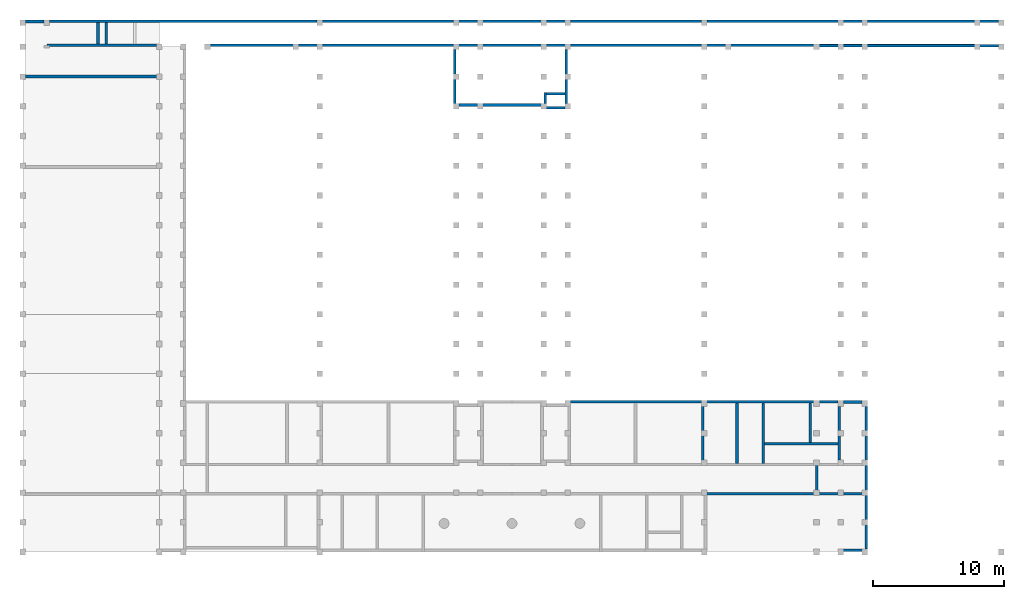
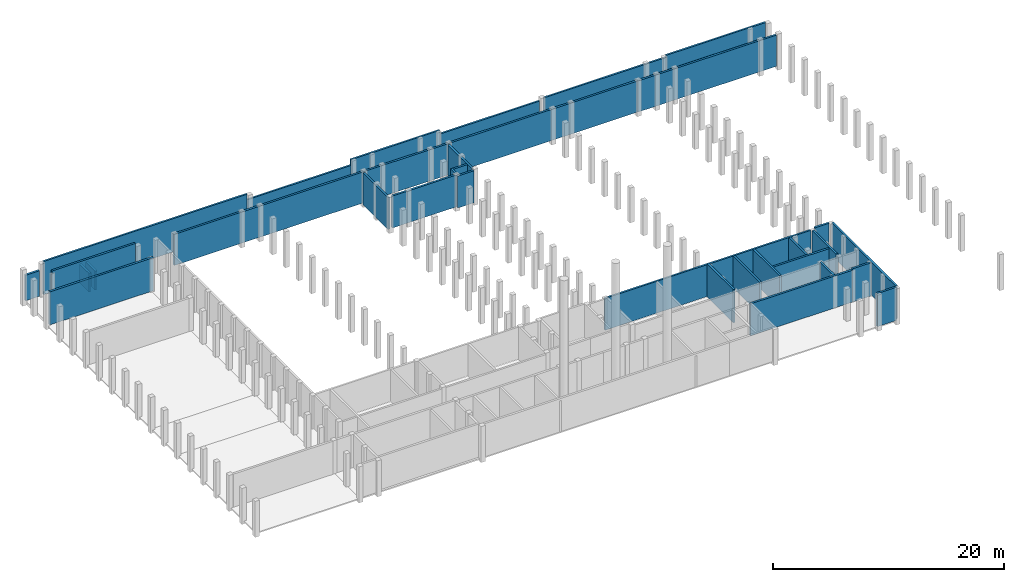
# One storey, part 9 of 9: 32 walls.
"""IFC2X3 building model written with IfcOpenShell, lengths in millimetres."""

from ifc_helpers import new_model, entity, si_unit, converted_unit, derived_unit, direction, frame, frame_2d, origin, place, context, subcontext, project, spatial, polyline, rectangle, extrude, clip, bounded_halfspace, material, layer, layer_set, layer_usage, type_object, element, save


model = new_model("IFC2X3")

# Units and contexts
model_context = context("Model", 3, precision=0.01, world=origin(), true_north=direction((6.12303176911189e-17, 1.0)))
body_context = subcontext(model_context, "Body", "Model", "MODEL_VIEW")
ifc_project = project(units=[si_unit("LENGTHUNIT", "METRE", prefix="MILLI"), si_unit("AREAUNIT", "SQUARE_METRE"), si_unit("VOLUMEUNIT", "CUBIC_METRE"), converted_unit("PLANEANGLEUNIT", "DEGREE", entity("IfcRatioMeasure", 0.0174532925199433), si_unit("PLANEANGLEUNIT", "RADIAN"), dimensions=[0, 0, 0, 0, 0, 0, 0]), si_unit("MASSUNIT", "GRAM", prefix="KILO"), derived_unit("MASSDENSITYUNIT", [(si_unit("MASSUNIT", "GRAM", prefix="KILO"), 1), (si_unit("LENGTHUNIT", "METRE"), -3)]), derived_unit("MOMENTOFINERTIAUNIT", [(si_unit("LENGTHUNIT", "METRE"), 4)]), si_unit("TIMEUNIT", "SECOND"), si_unit("FREQUENCYUNIT", "HERTZ"), si_unit("THERMODYNAMICTEMPERATUREUNIT", "DEGREE_CELSIUS"), derived_unit("THERMALTRANSMITTANCEUNIT", [(si_unit("MASSUNIT", "GRAM", prefix="KILO"), 1), (si_unit("THERMODYNAMICTEMPERATUREUNIT", "KELVIN"), -1), (si_unit("TIMEUNIT", "SECOND"), -3)]), derived_unit("VOLUMETRICFLOWRATEUNIT", [(si_unit("LENGTHUNIT", "METRE"), 3), (si_unit("TIMEUNIT", "SECOND"), -1)]), si_unit("ELECTRICCURRENTUNIT", "AMPERE"), si_unit("ELECTRICVOLTAGEUNIT", "VOLT"), si_unit("POWERUNIT", "WATT"), si_unit("FORCEUNIT", "NEWTON", prefix="KILO"), si_unit("ILLUMINANCEUNIT", "LUX"), si_unit("LUMINOUSFLUXUNIT", "LUMEN"), si_unit("LUMINOUSINTENSITYUNIT", "CANDELA"), derived_unit("USERDEFINED", [(si_unit("MASSUNIT", "GRAM", prefix="KILO"), -1), (si_unit("LENGTHUNIT", "METRE"), -2), (si_unit("TIMEUNIT", "SECOND"), 3), (si_unit("LUMINOUSFLUXUNIT", "LUMEN"), 1)]), derived_unit("LINEARVELOCITYUNIT", [(si_unit("LENGTHUNIT", "METRE"), 1), (si_unit("TIMEUNIT", "SECOND"), -1)]), si_unit("PRESSUREUNIT", "PASCAL"), derived_unit("USERDEFINED", [(si_unit("LENGTHUNIT", "METRE"), -2), (si_unit("MASSUNIT", "GRAM", prefix="KILO"), 1), (si_unit("TIMEUNIT", "SECOND"), -2)]), derived_unit("LINEARFORCEUNIT", [(si_unit("MASSUNIT", "GRAM", prefix="KILO"), 1), (si_unit("LENGTHUNIT", "METRE"), 1), (si_unit("TIMEUNIT", "SECOND"), -2), (si_unit("LENGTHUNIT", "METRE"), -1)]), derived_unit("PLANARFORCEUNIT", [(si_unit("MASSUNIT", "GRAM", prefix="KILO"), 1), (si_unit("LENGTHUNIT", "METRE"), 1), (si_unit("TIMEUNIT", "SECOND"), -2), (si_unit("LENGTHUNIT", "METRE"), -2)])], contexts=[model_context])

# Site, building, storey
site_placement = place(None, frame((10627.5135316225, 21939.0796949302, 0.0)))
site = spatial("IfcSite", under=ifc_project, at=site_placement, Name="Default", CompositionType="ELEMENT")
building_placement = place(site_placement, origin())
building = spatial("IfcBuilding", under=site, at=building_placement, CompositionType="ELEMENT")
storey_placement = place(building_placement, frame((0.0, 0.0, -3500.0)))
storey = spatial("IfcBuildingStorey", under=building, at=storey_placement, Name="R-1", CompositionType="ELEMENT", Elevation=-3500.0)

# Walls
ifc_material_1 = material(Name="Concrete - Cast-in-Place Concrete")
ifc_layer_1 = layer(ifc_material_1, 200.0)
ifc_layer_set_1 = layer_set([ifc_layer_1], Name="Basic Wall:Wall-Fnd_200interior")
ifc_layer_usage_1 = layer_usage(ifc_layer_set_1, "AXIS2", "POSITIVE", -100.0)
wall_type_1 = type_object("IfcWallType", Name="Basic Wall:Wall-Fnd_200interior", PredefinedType="STANDARD", material=ifc_layer_set_1)
wall_1_placement = place(storey_placement, frame((-8797.51353162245, 16595.9203050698, 0.0)))
element("IfcWallStandardCase", 1, at=wall_1_placement, inside=storey, type_object=wall_type_1, material=ifc_layer_usage_1, Name="Basic Wall:Wall-Fnd_200interior", ObjectType="Basic Wall:Wall-Fnd_200interior", context=body_context, shape_type="SweptSolid", body=[
    extrude(rectangle(XDim=8335.00000000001, YDim=200.000000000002, at=frame_2d((4167.5, -3.69482222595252e-13), x_axis=(-1.0, 0.0))), origin(), (0.0, 0.0, 1.0), 3700.0),
])
ifc_layer_usage_2 = layer_usage(ifc_layer_set_1, "AXIS2", "NEGATIVE", 100.0)
wall_2_placement = place(storey_placement, frame((63567.4864683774, 16580.9203050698, 0.0), z_axis=(0.0, 0.0, 1.0), x_axis=(-1.0, 0.0, 0.0)))
element("IfcWallStandardCase", 2, at=wall_2_placement, inside=storey, type_object=wall_type_1, material=ifc_layer_usage_2, Name="Basic Wall:Wall-Fnd_200interior", ObjectType="Basic Wall:Wall-Fnd_200interior", context=body_context, shape_type="Clipping", body=[
    clip(extrude(rectangle(XDim=13825.0, YDim=199.999999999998, at=frame_2d((6912.50000000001, 0.0), x_axis=(-1.0, 0.0))), origin(), (0.0, 0.0, 1.0), 3289.0), bounded_halfspace(frame((12208.0, -100.0, 3289.0), z_axis=(0.0, 0.0, -1.0), x_axis=(0.0, -1.0, 0.0)), True, frame((12208.0, -100.0, 3289.0)), polyline([(0.0, 0.0), (1617.0, 0.0), (1617.0, 200.0), (0.0, 200.0), (0.0, 0.0)]))),
])
ifc_layer_usage_3 = layer_usage(ifc_layer_set_1, "AXIS2", "POSITIVE", -100.0)
wall_3_placement = place(storey_placement, frame((51472.4864683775, -17519.0796949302, 0.0), z_axis=(0.0, 0.0, 1.0), x_axis=(-1.0, 0.0, 0.0)))
element("IfcWallStandardCase", 3, at=wall_3_placement, inside=storey, type_object=wall_type_1, material=ifc_layer_usage_3, Name="Basic Wall:Wall-Fnd_200interior", ObjectType="Basic Wall:Wall-Fnd_200interior", context=body_context, shape_type="SweptSolid", body=[
    extrude(rectangle(XDim=10180.0, YDim=199.999999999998, at=frame_2d((5090.0, 3.12638803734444e-13), x_axis=(-1.0, 0.0))), origin(), (0.0, 0.0, 1.0), 3370.0),
])
ifc_layer_2 = layer(ifc_material_1, 200.0)
ifc_layer_set_2 = layer_set([ifc_layer_2], Name="Basic Wall:Wall-Fnd_200")
ifc_layer_usage_4 = layer_usage(ifc_layer_set_2, "AXIS2", "NEGATIVE", 100.0)
wall_type_2 = type_object("IfcWallType", Name="Basic Wall:Wall-Fnd_200", PredefinedType="STANDARD", material=ifc_layer_set_2)
wall_4_placement = place(storey_placement, frame((61952.4864683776, 16600.9203050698, 0.0), z_axis=(0.0, 0.0, 1.0), x_axis=(-1.0, 0.0, 0.0)))
element("IfcWallStandardCase", 4, at=wall_4_placement, inside=storey, type_object=wall_type_2, material=ifc_layer_usage_4, Name="Basic Wall:Wall-Fnd_200", ObjectType="Basic Wall:Wall-Fnd_200", context=body_context, shape_type="Clipping", body=[
    clip(extrude(rectangle(XDim=58540.0, YDim=199.999999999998, at=frame_2d((29270.0, 3.26849658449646e-13), x_axis=(-1.0, 0.0))), origin(), (0.0, 0.0, 1.0), 3289.0), bounded_halfspace(frame((10593.0, -100.0, 3289.0), z_axis=(0.0, 0.0, -1.0), x_axis=(0.0, -1.0, 0.0)), True, frame((10593.0, -100.0, 3289.0)), polyline([(0.0, 0.0), (9952.0, 0.0), (9952.0, 200.0), (0.0, 200.0), (0.0, 0.0)]))),
])
ifc_layer_usage_5 = layer_usage(ifc_layer_set_2, "AXIS2", "NEGATIVE", 100.0)
wall_5_placement = place(storey_placement, frame((51472.4864683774, -17519.0796949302, 0.0)))
element("IfcWallStandardCase", 5, at=wall_5_placement, inside=storey, type_object=wall_type_2, material=ifc_layer_usage_5, Name="Basic Wall:Wall-Fnd_200", ObjectType="Basic Wall:Wall-Fnd_200", context=body_context, shape_type="SweptSolid", body=[
    extrude(rectangle(XDim=1830.00000000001, YDim=199.999999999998, at=frame_2d((915.000000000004, 0.0), x_axis=(-1.0, 0.0))), origin(), (0.0, 0.0, 1.0), 3500.0),
])
ifc_layer_usage_6 = layer_usage(ifc_layer_set_2, "AXIS2", "POSITIVE", -100.0)
wall_6_placement = place(storey_placement, frame((49742.4864683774, -17419.0796949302, 0.0), z_axis=(0.0, 0.0, 1.0), x_axis=(0.0, 1.0, 0.0)))
element("IfcWallStandardCase", 6, at=wall_6_placement, inside=storey, type_object=wall_type_2, material=ifc_layer_usage_6, Name="Basic Wall:Wall-Fnd_200", ObjectType="Basic Wall:Wall-Fnd_200", context=body_context, shape_type="Clipping", body=[
    clip(extrude(rectangle(XDim=2260.00000000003, YDim=200.000000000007, at=frame_2d((1130.00000000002, -1.89714910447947e-12), x_axis=(-1.0, 0.0))), origin(), (0.0, 0.0, 1.0), 3370.0), bounded_halfspace(frame((0.0, -100.0, 3370.0), z_axis=(0.0, 0.0, -1.0), x_axis=(0.0, -1.0, 0.0)), True, frame((0.0, -100.0, 3370.0)), polyline([(0.0, 0.0), (2260.0, 0.0), (2260.0, 200.0), (0.0, 200.0), (0.0, 0.0)]))),
])
ifc_layer_usage_7 = layer_usage(ifc_layer_set_2, "AXIS2", "POSITIVE", -100.0)
wall_7_placement = place(storey_placement, frame((22229.4864683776, 16265.9203050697, 0.0), z_axis=(0.0, 0.0, 1.0), x_axis=(0.0, -1.0, 0.0)))
element("IfcWallStandardCase", 7, at=wall_7_placement, inside=storey, type_object=wall_type_2, material=ifc_layer_usage_7, Name="Basic Wall:Wall-Fnd_200", ObjectType="Basic Wall:Wall-Fnd_200", context=body_context, shape_type="Clipping", body=[
    clip(extrude(rectangle(XDim=4305.0, YDim=199.999999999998, at=frame_2d((2152.5, 0.0), x_axis=(-1.0, 0.0))), origin(), (0.0, 0.0, 1.0), 3370.0), bounded_halfspace(frame((0.0, -100.0, 3370.0), z_axis=(0.0, 0.0, -1.0), x_axis=(0.0, 1.0, 0.0)), True, frame((0.0, -100.0, 3370.0)), polyline([(0.0, 0.0), (4305.0, 0.0), (4305.0, 200.0), (0.0, 200.0), (0.0, 0.0)]))),
])
ifc_layer_usage_8 = layer_usage(ifc_layer_set_2, "AXIS2", "POSITIVE", -100.0)
wall_8_placement = place(storey_placement, frame((22557.4864683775, 12060.9203050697, 0.0)))
element("IfcWallStandardCase", 8, at=wall_8_placement, inside=storey, type_object=wall_type_2, material=ifc_layer_usage_8, Name="Basic Wall:Wall-Fnd_200", ObjectType="Basic Wall:Wall-Fnd_200", context=body_context, shape_type="Clipping", body=[
    clip(extrude(rectangle(XDim=6639.99999999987, YDim=199.999999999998, at=frame_2d((3319.99999999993, 0.0), x_axis=(-1.0, 0.0))), origin(), (0.0, 0.0, 1.0), 3370.0), bounded_halfspace(frame((0.0, -100.0, 3370.0), z_axis=(0.0, 0.0, -1.0), x_axis=(1.0, 0.0, 0.0)), True, frame((0.0, -100.0, 3370.0)), polyline([(0.0, 0.0), (6640.0, 0.0), (6640.0, 200.0), (6440.0, 200.0), (0.0, 200.0), (0.0, 0.0)]))),
])
ifc_layer_usage_9 = layer_usage(ifc_layer_set_2, "AXIS2", "POSITIVE", -100.0)
wall_9_placement = place(storey_placement, frame((29097.4864683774, 12160.9203050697, 0.0), z_axis=(0.0, 0.0, 1.0), x_axis=(0.0, 1.0, 0.0)))
element("IfcWallStandardCase", 9, at=wall_9_placement, inside=storey, type_object=wall_type_2, material=ifc_layer_usage_9, Name="Basic Wall:Wall-Fnd_200", ObjectType="Basic Wall:Wall-Fnd_200", context=body_context, shape_type="Clipping", body=[
    clip(extrude(rectangle(XDim=869.182833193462, YDim=199.999999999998, at=frame_2d((434.591416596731, 0.0), x_axis=(-1.0, 0.0))), origin(), (0.0, 0.0, 1.0), 3370.0), bounded_halfspace(frame((0.0, -100.0, 3370.0), z_axis=(0.0, 0.0, -1.0), x_axis=(0.0, -1.0, 0.0)), True, frame((0.0, -100.0, 3370.0)), polyline([(0.0, 0.0), (669.182833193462, 0.0), (869.182833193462, 0.0), (869.182833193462, 200.0), (0.0, 200.0), (0.0, 0.0)]))),
])
ifc_layer_usage_10 = layer_usage(ifc_layer_set_2, "AXIS2", "POSITIVE", -100.0)
wall_10_placement = place(storey_placement, frame((29197.4864683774, 12930.1031382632, 0.0)))
element("IfcWallStandardCase", 10, at=wall_10_placement, inside=storey, type_object=wall_type_2, material=ifc_layer_usage_10, Name="Basic Wall:Wall-Fnd_200", ObjectType="Basic Wall:Wall-Fnd_200", context=body_context, shape_type="Clipping", body=[
    clip(extrude(rectangle(XDim=1401.99999999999, YDim=199.999999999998, at=frame_2d((700.999999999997, -1.56319401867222e-13), x_axis=(-1.0, 0.0))), origin(), (0.0, 0.0, 1.0), 3370.0), bounded_halfspace(frame((0.0, -100.0, 3370.0), z_axis=(0.0, 0.0, -1.0), x_axis=(1.0, 0.0, 0.0)), True, frame((0.0, -100.0, 3370.0)), polyline([(0.0, 0.0), (1402.0, 0.0), (1402.0, 200.0), (0.0, 200.0), (0.0, 0.0)]))),
])
ifc_layer_usage_11 = layer_usage(ifc_layer_set_2, "AXIS2", "NEGATIVE", 100.0)
wall_11_placement = place(storey_placement, frame((30599.4864683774, 11845.9203050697, 0.0), z_axis=(0.0, 0.0, 1.0), x_axis=(-1.0, 0.0, 0.0)))
element("IfcWallStandardCase", 11, at=wall_11_placement, inside=storey, type_object=wall_type_2, material=ifc_layer_usage_11, Name="Basic Wall:Wall-Fnd_200", ObjectType="Basic Wall:Wall-Fnd_200", context=body_context, shape_type="Clipping", body=[
    clip(extrude(rectangle(XDim=1617.0, YDim=199.999999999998, at=frame_2d((808.5, 0.0), x_axis=(-1.0, 0.0))), origin(), (0.0, 0.0, 1.0), 3370.0), bounded_halfspace(frame((0.0, -100.0, 3370.0), z_axis=(0.0, 0.0, -1.0), x_axis=(-1.0, 0.0, 0.0)), True, frame((0.0, -100.0, 3370.0)), polyline([(0.0, 0.0), (1617.0, 0.0), (1617.0, 200.0), (0.0, 200.0), (0.0, 0.0)]))),
])
ifc_layer_usage_12 = layer_usage(ifc_layer_set_2, "AXIS2", "NEGATIVE", 100.0)
wall_12_placement = place(storey_placement, frame((30699.4864683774, 12175.9203050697, 0.0), z_axis=(0.0, 0.0, 1.0), x_axis=(0.0, 1.0, 0.0)))
element("IfcWallStandardCase", 12, at=wall_12_placement, inside=storey, type_object=wall_type_2, material=ifc_layer_usage_12, Name="Basic Wall:Wall-Fnd_200", ObjectType="Basic Wall:Wall-Fnd_200", context=body_context, shape_type="Clipping", body=[
    clip(extrude(rectangle(XDim=4090.0, YDim=199.999999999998, at=frame_2d((2045.0, 0.0), x_axis=(-1.0, 0.0))), origin(), (0.0, 0.0, 1.0), 3370.0), bounded_halfspace(frame((0.0, -100.0, 3370.0), z_axis=(0.0, 0.0, -1.0), x_axis=(0.0, -1.0, 0.0)), True, frame((0.0, -100.0, 3370.0)), polyline([(0.0, 0.0), (4090.0, 0.0), (4090.0, 200.0), (854.182833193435, 200.0), (654.182833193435, 200.0), (0.0, 200.0), (0.0, 0.0)]))),
])
ifc_layer_usage_13 = layer_usage(ifc_layer_set_2, "AXIS2", "POSITIVE", -100.0)
wall_13_placement = place(storey_placement, frame((53517.4864683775, -21724.0796949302, 0.0), z_axis=(0.0, 0.0, 1.0), x_axis=(0.0, 1.0, 0.0)))
element("IfcWallStandardCase", 13, at=wall_13_placement, inside=storey, type_object=wall_type_2, material=ifc_layer_usage_13, Name="Basic Wall:Wall-Fnd_200", ObjectType="Basic Wall:Wall-Fnd_200", context=body_context, shape_type="SweptSolid", body=[
    extrude(rectangle(XDim=11085.0, YDim=200.000000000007, at=frame_2d((5542.5, 0.0), x_axis=(-1.0, 0.0))), origin(), (0.0, 0.0, 1.0), 3500.0),
])
ifc_layer_usage_14 = layer_usage(ifc_layer_set_2, "AXIS2", "POSITIVE", -100.0)
wall_14_placement = place(storey_placement, frame((53189.4864683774, -10524.0796949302, 0.0), z_axis=(0.0, 0.0, 1.0), x_axis=(-1.0, 0.0, 0.0)))
element("IfcWallStandardCase", 14, at=wall_14_placement, inside=storey, type_object=wall_type_2, material=ifc_layer_usage_14, Name="Basic Wall:Wall-Fnd_200", ObjectType="Basic Wall:Wall-Fnd_200", context=body_context, shape_type="SweptSolid", body=[
    extrude(rectangle(XDim=1404.0, YDim=199.999999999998, at=frame_2d((702.000000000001, 0.0), x_axis=(-1.0, 0.0))), origin(), (0.0, 0.0, 1.0), 3500.0),
])
ifc_layer_usage_15 = layer_usage(ifc_layer_set_2, "AXIS2", "NEGATIVE", 100.0)
wall_15_placement = place(storey_placement, frame((51457.4864683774, -14944.0796949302, 0.0), z_axis=(0.0, 0.0, 1.0), x_axis=(0.0, 1.0, 0.0)))
element("IfcWallStandardCase", 15, at=wall_15_placement, inside=storey, type_object=wall_type_2, material=ifc_layer_usage_15, Name="Basic Wall:Wall-Fnd_200", ObjectType="Basic Wall:Wall-Fnd_200", context=body_context, shape_type="SweptSolid", body=[
    extrude(rectangle(XDim=4090.0, YDim=200.000000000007, at=frame_2d((2045.0, 0.0), x_axis=(-1.0, 0.0))), origin(), (0.0, 0.0, 1.0), 3500.0),
])
ifc_layer_usage_16 = layer_usage(ifc_layer_set_2, "AXIS2", "NEGATIVE", 100.0)
wall_16_placement = place(storey_placement, frame((51357.4864683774, -13694.0796949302, 0.0), z_axis=(0.0, 0.0, 1.0), x_axis=(-1.0, 0.0, 0.0)))
element("IfcWallStandardCase", 16, at=wall_16_placement, inside=storey, type_object=wall_type_2, material=ifc_layer_usage_16, Name="Basic Wall:Wall-Fnd_200", ObjectType="Basic Wall:Wall-Fnd_200", context=body_context, shape_type="Clipping", body=[
    clip(extrude(rectangle(XDim=5580.0, YDim=199.999999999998, at=frame_2d((2790.0, -3.90798504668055e-13), x_axis=(-1.0, 0.0))), origin(), (0.0, 0.0, 1.0), 3370.0), bounded_halfspace(frame((0.0, -100.0, 3370.0), z_axis=(0.0, 0.0, -1.0), x_axis=(-1.0, 0.0, 0.0)), True, frame((0.0, -100.0, 3370.0)), polyline([(0.0, 0.0), (2008.21463158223, 0.0), (2208.21463158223, 0.0), (5580.0, 0.0), (5580.0, 200.0), (0.0, 200.0), (0.0, 0.0)]))),
])
ifc_layer_usage_17 = layer_usage(ifc_layer_set_2, "AXIS2", "NEGATIVE", 100.0)
wall_17_placement = place(storey_placement, frame((45677.4864683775, -15194.0796949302, 0.0), z_axis=(0.0, 0.0, 1.0), x_axis=(0.0, 1.0, 0.0)))
element("IfcWallStandardCase", 17, at=wall_17_placement, inside=storey, type_object=wall_type_2, material=ifc_layer_usage_17, Name="Basic Wall:Wall-Fnd_200", ObjectType="Basic Wall:Wall-Fnd_200", context=body_context, shape_type="Clipping", body=[
    clip(extrude(rectangle(XDim=4590.00000000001, YDim=200.000000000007, at=frame_2d((2295.0, -8.5265128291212e-14), x_axis=(-1.0, 0.0))), origin(), (0.0, 0.0, 1.0), 3370.0), bounded_halfspace(frame((0.0, -100.0, 3370.0), z_axis=(0.0, 0.0, -1.0), x_axis=(0.0, -1.0, 0.0)), True, frame((0.0, -100.0, 3370.0)), polyline([(0.0, 0.0), (1400.0, 0.0), (1600.0, 0.0), (4590.0, 0.0), (4590.0, 200.0), (0.0, 200.0), (0.0, 0.0)]))),
])
ifc_layer_usage_18 = layer_usage(ifc_layer_set_2, "AXIS2", "NEGATIVE", 100.0)
wall_18_placement = place(storey_placement, frame((49249.2718367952, -13594.0796949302, 0.0), z_axis=(0.0, 0.0, 1.0), x_axis=(0.0, 1.0, 0.0)))
element("IfcWallStandardCase", 18, at=wall_18_placement, inside=storey, type_object=wall_type_2, material=ifc_layer_usage_18, Name="Basic Wall:Wall-Fnd_200", ObjectType="Basic Wall:Wall-Fnd_200", context=body_context, shape_type="Clipping", body=[
    clip(extrude(rectangle(XDim=2990.0, YDim=200.000000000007, at=frame_2d((1495.0, -2.62900812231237e-13), x_axis=(-1.0, 0.0))), origin(), (0.0, 0.0, 1.0), 3370.0), bounded_halfspace(frame((0.0, -100.0, 3370.0), z_axis=(0.0, 0.0, -1.0), x_axis=(0.0, -1.0, 0.0)), True, frame((0.0, -100.0, 3370.0)), polyline([(0.0, 0.0), (2990.0, 0.0), (2990.0, 200.0), (0.0, 200.0), (0.0, 0.0)]))),
])
ifc_layer_3 = layer(ifc_material_1, 180.0)
ifc_layer_set_3 = layer_set([ifc_layer_3], Name="Basic Wall:Mur S/SOL 18")
ifc_layer_usage_19 = layer_usage(ifc_layer_set_3, "AXIS2", "POSITIVE", -90.0)
wall_type_3 = type_object("IfcWallType", Name="Basic Wall:Mur S/SOL 18", PredefinedType="STANDARD", material=ifc_layer_set_3)
wall_19_placement = place(storey_placement, frame((51359.4864683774, -10514.0796949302, 0.0), z_axis=(0.0, 0.0, 1.0), x_axis=(-1.0, 0.0, 0.0)))
element("IfcWallStandardCase", 19, at=wall_19_placement, inside=storey, type_object=wall_type_3, material=ifc_layer_usage_19, Name="Basic Wall:Mur S/SOL 18", ObjectType="Basic Wall:Mur S/SOL 18", context=body_context, shape_type="Clipping", body=[
    clip(extrude(rectangle(XDim=20547.0, YDim=179.999999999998, at=frame_2d((10273.5, 0.0), x_axis=(-1.0, 0.0))), origin(), (0.0, 0.0, 1.0), 3370.0), bounded_halfspace(frame((0.0, -90.0, 3370.0), z_axis=(0.0, 0.0, -1.0), x_axis=(-1.0, 0.0, 0.0)), True, frame((0.0, -90.0, 3370.0)), polyline([(0.0, 0.0), (10167.0, 0.0), (10167.0, 180.0), (7767.0, 180.0), (7567.0, 180.0), (5782.0, 180.0), (5582.0, 180.0), (2210.21463158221, 180.0), (2010.21463158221, 180.0), (0.0, 180.0), (0.0, 0.0)]))),
])
ifc_layer_usage_20 = layer_usage(ifc_layer_set_3, "AXIS2", "NEGATIVE", 90.0)
wall_20_placement = place(storey_placement, frame((-8583.51353162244, 18435.9203050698, 0.0)))
element("IfcWallStandardCase", 20, at=wall_20_placement, inside=storey, type_object=wall_type_3, material=ifc_layer_usage_20, Name="Basic Wall:Mur S/SOL 18", ObjectType="Basic Wall:Mur S/SOL 18", context=body_context, shape_type="SweptSolid", body=[
    extrude(rectangle(XDim=20340.0, YDim=179.999999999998, at=frame_2d((10170.0, 4.9737991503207e-14), x_axis=(-1.0, 0.0))), origin(), (0.0, 0.0, 1.0), 3500.0),
])
ifc_layer_usage_21 = layer_usage(ifc_layer_set_3, "AXIS2", "NEGATIVE", 90.0)
wall_21_placement = place(storey_placement, frame((11756.4864683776, 18435.9203050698, 0.0)))
element("IfcWallStandardCase", 21, at=wall_21_placement, inside=storey, type_object=wall_type_3, material=ifc_layer_usage_21, Name="Basic Wall:Mur S/SOL 18", ObjectType="Basic Wall:Mur S/SOL 18", context=body_context, shape_type="SweptSolid", body=[
    extrude(rectangle(XDim=10360.0, YDim=179.999999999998, at=frame_2d((5180.0, 3.26849658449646e-13), x_axis=(-1.0, 0.0))), origin(), (0.0, 0.0, 1.0), 2900.0),
])
ifc_layer_usage_22 = layer_usage(ifc_layer_set_3, "AXIS2", "NEGATIVE", 90.0)
wall_22_placement = place(storey_placement, frame((22116.4864683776, 18435.9203050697, 0.0)))
element("IfcWallStandardCase", 22, at=wall_22_placement, inside=storey, type_object=wall_type_3, material=ifc_layer_usage_22, Name="Basic Wall:Mur S/SOL 18", ObjectType="Basic Wall:Mur S/SOL 18", context=body_context, shape_type="SweptSolid", body=[
    extrude(rectangle(XDim=8920.0, YDim=179.999999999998, at=frame_2d((4460.0, -8.95283847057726e-13), x_axis=(-1.0, 0.0))), origin(), (0.0, 0.0, 1.0), 3500.0),
])
ifc_layer_usage_23 = layer_usage(ifc_layer_set_3, "AXIS2", "NEGATIVE", 90.0)
wall_23_placement = place(storey_placement, frame((31036.4864683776, 18435.9203050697, 0.0)))
element("IfcWallStandardCase", 23, at=wall_23_placement, inside=storey, type_object=wall_type_3, material=ifc_layer_usage_23, Name="Basic Wall:Mur S/SOL 18", ObjectType="Basic Wall:Mur S/SOL 18", context=body_context, shape_type="SweptSolid", body=[
    extrude(rectangle(XDim=9940.0, YDim=179.999999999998, at=frame_2d((4970.0, 7.31859017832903e-13), x_axis=(-1.0, 0.0))), origin(), (0.0, 0.0, 1.0), 3100.0),
])
ifc_layer_usage_24 = layer_usage(ifc_layer_set_3, "AXIS2", "NEGATIVE", 90.0)
wall_24_placement = place(storey_placement, frame((53627.4864683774, 18435.9203050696, 0.0)))
element("IfcWallStandardCase", 24, at=wall_24_placement, inside=storey, type_object=wall_type_3, material=ifc_layer_usage_24, Name="Basic Wall:Mur S/SOL 18", ObjectType="Basic Wall:Mur S/SOL 18", context=body_context, shape_type="SweptSolid", body=[
    extrude(rectangle(XDim=9940.0, YDim=179.999999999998, at=frame_2d((4970.0, -3.48165940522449e-13), x_axis=(-1.0, 0.0))), origin(), (0.0, 0.0, 1.0), 3500.0),
])
ifc_layer_usage_25 = layer_usage(ifc_layer_set_3, "AXIS2", "NEGATIVE", 90.0)
wall_25_placement = place(storey_placement, frame((41407.4864683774, 18435.9203050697, 0.0)))
element("IfcWallStandardCase", 25, at=wall_25_placement, inside=storey, type_object=wall_type_3, material=ifc_layer_usage_25, Name="Basic Wall:Mur S/SOL 18", ObjectType="Basic Wall:Mur S/SOL 18", context=body_context, shape_type="Clipping", body=[
    clip(extrude(rectangle(XDim=12220.0, YDim=179.999999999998, at=frame_2d((6109.99999999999, 4.9737991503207e-14), x_axis=(-1.0, 0.0))), origin(), (0.0, 0.0, 1.0), 3289.0), bounded_halfspace(frame((0.0, -90.0, 3289.0), z_axis=(0.0, 0.0, -1.0), x_axis=(0.0, 1.0, 0.0)), True, frame((0.0, -90.0, 3289.0)), polyline([(0.0, 0.0), (9952.0, 0.0), (9952.0, 180.0), (0.0, 180.0), (0.0, 0.0)]))),
])
ifc_material_2 = material(Name="Plaster")
ifc_layer_4 = layer(ifc_material_2, 12.5)
ifc_material_3 = material(Name="Concrete Masonry Units")
ifc_layer_5 = layer(ifc_material_3, 175.0)
ifc_layer_6 = layer(ifc_material_2, 12.5)
ifc_layer_set_4 = layer_set([ifc_layer_4, ifc_layer_5, ifc_layer_6], Name="Basic Wall:Wall-Int_200")
ifc_layer_usage_26 = layer_usage(ifc_layer_set_4, "AXIS2", "POSITIVE", -100.0)
wall_type_4 = type_object("IfcWallType", Name="Basic Wall:Wall-Int_200", PredefinedType="STANDARD", material=ifc_layer_set_4)
wall_26_placement = place(storey_placement, frame((43692.4864683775, -15194.0796949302, 0.0), z_axis=(0.0, 0.0, 1.0), x_axis=(0.0, 1.0, 0.0)))
element("IfcWallStandardCase", 26, at=wall_26_placement, inside=storey, type_object=wall_type_4, material=ifc_layer_usage_26, Name="Basic Wall:Wall-Int_200", ObjectType="Basic Wall:Wall-Int_200", context=body_context, shape_type="Clipping", body=[
    clip(extrude(rectangle(XDim=4590.00000000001, YDim=200.000000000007, at=frame_2d((2295.0, 6.89226453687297e-13), x_axis=(-1.0, 0.0))), origin(), (0.0, 0.0, 1.0), 3370.0), bounded_halfspace(frame((0.0, -100.0, 3370.0), z_axis=(0.0, 0.0, -1.0), x_axis=(0.0, -1.0, 0.0)), True, frame((0.0, -100.0, 3370.0)), polyline([(0.0, 0.0), (4590.0, 0.0), (4590.0, 200.0), (0.0, 200.0), (0.0, 0.0)]))),
])
ifc_layer_usage_27 = layer_usage(ifc_layer_set_4, "AXIS2", "NEGATIVE", 100.0)
wall_27_placement = place(storey_placement, frame((41077.4864683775, -15159.0796949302, 0.0), z_axis=(0.0, 0.0, 1.0), x_axis=(0.0, 1.0, 0.0)))
element("IfcWallStandardCase", 27, at=wall_27_placement, inside=storey, type_object=wall_type_4, material=ifc_layer_usage_27, Name="Basic Wall:Wall-Int_200", ObjectType="Basic Wall:Wall-Int_200", context=body_context, shape_type="SweptSolid", body=[
    extrude(rectangle(XDim=4555.0, YDim=200.000000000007, at=frame_2d((2277.5, 1.14397380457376e-12), x_axis=(-1.0, 0.0))), origin(), (0.0, 0.0, 1.0), 3500.0),
])
ifc_layer_usage_28 = layer_usage(ifc_layer_set_4, "AXIS2", "NEGATIVE", 100.0)
wall_28_placement = place(storey_placement, frame((51472.4864683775, -21811.5796949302, 0.0)))
element("IfcWallStandardCase", 28, at=wall_28_placement, inside=storey, type_object=wall_type_4, material=ifc_layer_usage_28, Name="Basic Wall:Wall-Int_200", ObjectType="Basic Wall:Wall-Int_200", context=body_context, shape_type="SweptSolid", body=[
    extrude(rectangle(XDim=1930.0, YDim=199.999999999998, at=frame_2d((965.000000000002, -1.13686837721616e-13), x_axis=(-1.0, 0.0))), origin(), (0.0, 0.0, 1.0), 3500.0),
])
ifc_layer_7 = layer(ifc_material_1, 200.0)
ifc_layer_set_5 = layer_set([ifc_layer_7], Name="Basic Wall:Mur S/SOL 20")
ifc_layer_usage_29 = layer_usage(ifc_layer_set_5, "AXIS2", "NEGATIVE", 100.0)
wall_type_5 = type_object("IfcWallType", Name="Basic Wall:Mur S/SOL 20", PredefinedType="STANDARD", material=ifc_layer_set_5)
wall_29_placement = place(storey_placement, frame((-4912.51353162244, 18345.9203050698, 0.0), z_axis=(0.0, 0.0, 1.0), x_axis=(0.0, -1.0, 0.0)))
element("IfcWallStandardCase", 29, at=wall_29_placement, inside=storey, type_object=wall_type_5, material=ifc_layer_usage_29, Name="Basic Wall:Mur S/SOL 20", ObjectType="Basic Wall:Mur S/SOL 20", context=body_context, shape_type="SweptSolid", body=[
    extrude(rectangle(XDim=1650.0, YDim=200.0, at=frame_2d((825.000000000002, 9.9475983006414e-14), x_axis=(-1.0, 0.0))), origin(), (0.0, 0.0, 1.0), 2000.0),
])
ifc_layer_usage_30 = layer_usage(ifc_layer_set_5, "AXIS2", "NEGATIVE", 100.0)
wall_30_placement = place(storey_placement, frame((-4282.51353162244, 18345.9203050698, 0.0), z_axis=(0.0, 0.0, 1.0), x_axis=(0.0, -1.0, 0.0)))
element("IfcWallStandardCase", 30, at=wall_30_placement, inside=storey, type_object=wall_type_5, material=ifc_layer_usage_30, Name="Basic Wall:Mur S/SOL 20", ObjectType="Basic Wall:Mur S/SOL 20", context=body_context, shape_type="SweptSolid", body=[
    extrude(rectangle(XDim=1650.0, YDim=200.0, at=frame_2d((825.000000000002, -1.77635683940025e-13), x_axis=(-1.0, 0.0))), origin(), (0.0, 0.0, 1.0), 2000.0),
])
ifc_layer_8 = layer(ifc_material_1, 210.0)
ifc_layer_set_6 = layer_set([ifc_layer_8], Name="Basic Wall:Mur S/SOL 21")
ifc_layer_usage_31 = layer_usage(ifc_layer_set_6, "AXIS2", "NEGATIVE", 105.0)
wall_type_6 = type_object("IfcWallType", Name="Basic Wall:Mur S/SOL 21", PredefinedType="STANDARD", material=ifc_layer_set_6)
wall_31_placement = place(storey_placement, frame((-10412.5135316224, 18420.9203050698, 0.0)))
element("IfcWallStandardCase", 31, at=wall_31_placement, inside=storey, type_object=wall_type_6, material=ifc_layer_usage_31, Name="Basic Wall:Mur S/SOL 21", ObjectType="Basic Wall:Mur S/SOL 21", context=body_context, shape_type="SweptSolid", body=[
    extrude(rectangle(XDim=1402.00000000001, YDim=210.0, at=frame_2d((701.000000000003, 0.0), x_axis=(-1.0, 0.0))), origin(), (0.0, 0.0, 1.0), 2700.0),
])
ifc_layer_usage_32 = layer_usage(ifc_layer_set_6, "AXIS2", "NEGATIVE", 105.0)
wall_32_placement = place(storey_placement, frame((-10412.5135316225, 14220.9203050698, 0.0)))
element("IfcWallStandardCase", 32, at=wall_32_placement, inside=storey, type_object=wall_type_6, material=ifc_layer_usage_32, Name="Basic Wall:Mur S/SOL 21", ObjectType="Basic Wall:Mur S/SOL 21", context=body_context, shape_type="SweptSolid", body=[
    extrude(rectangle(XDim=10380.0, YDim=210.0, at=frame_2d((5190.0, -3.83693077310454e-13), x_axis=(-1.0, 0.0))), origin(), (0.0, 0.0, 1.0), 3500.0),
])

save(model, "model.ifc")
